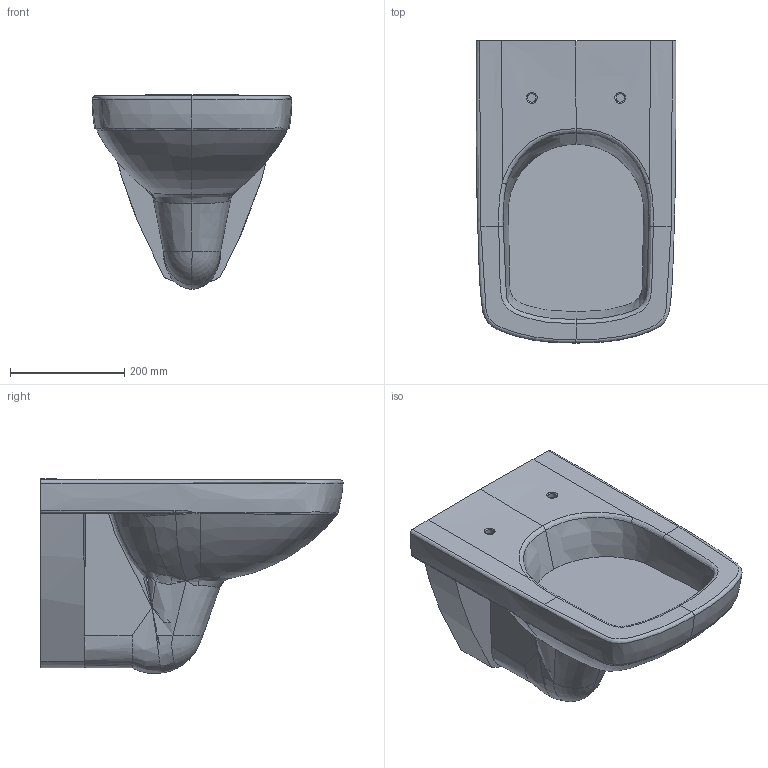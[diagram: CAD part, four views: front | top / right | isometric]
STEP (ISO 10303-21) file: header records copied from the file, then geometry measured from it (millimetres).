
FILE_DESCRIPTION(/* description */ (''),/* implementation_level */ '2;1');
FILE_NAME(/* name */ 'C:\Planerdaten\Export PLA\500.275.01.1\stp\500275.stp',/* time_stamp */ '2020-05-01T05:22:10-07:00',/* author */ ('JANAN'),/* organization */ (''),/* preprocessor_version */ 'ST-DEVELOPER v16.13',/* originating_system */ 'Autodesk Inventor 2018',/* authorisation */ '');
FILE_SCHEMA (('AUTOMOTIVE_DESIGN { 1 0 10303 214 3 1 1 }'));
Length unit declared in the file: millimetre
Products named in the file (1): WWC-T Ge+SnvS T53 Rfree
Bounding box: 350 x 530 x 341.69 mm (x, y, z)
Volume: 22206308.8 mm3; surface area: 729115.5 mm2
Topology: 1 solids, 1 shells, 97 faces, 237 edges, 133 vertices
Faces by surface type: bspline 80, plane 13, cylinder 4
Full cylindrical faces by diameter (mm): 20 x2, 50 x1, 90 x1
Entity records: 25126 total; most frequent: CARTESIAN_POINT 23374, ORIENTED_EDGE 440, EDGE_CURVE 220, DIRECTION 147, B_SPLINE_CURVE_WITH_KNOTS 141, VERTEX_POINT 133, EDGE_LOOP 105, STYLED_ITEM 98
